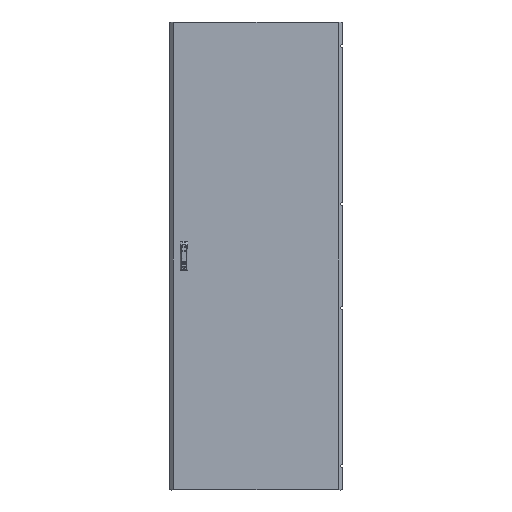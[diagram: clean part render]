
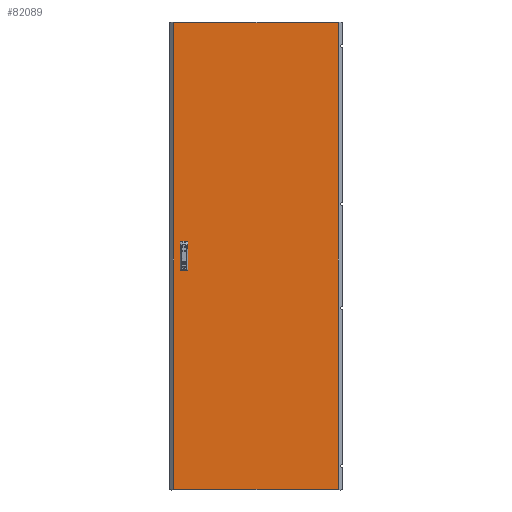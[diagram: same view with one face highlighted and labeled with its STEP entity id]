
A CAD part, top view. The second image highlights one B-rep face of the part: STEP entity #82089.
In plain terms, the highlighted planar face has unit normal (0, 0, 1).
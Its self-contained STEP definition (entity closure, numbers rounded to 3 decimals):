
#5246 = CARTESIAN_POINT ( 'NONE',  ( -377.875, -1069.5, 0. ) ) ;
#6404 = CARTESIAN_POINT ( 'NONE',  ( 377.875, 1069.5, 0. ) ) ;
#7459 = CARTESIAN_POINT ( 'NONE',  ( -317.5, -62.5, 0. ) ) ;
#8444 = VERTEX_POINT ( 'NONE', #133043 ) ;
#8459 = VECTOR ( 'NONE', #134725, 1000. ) ;
#9691 = LINE ( 'NONE', #97437, #21490 ) ;
#9742 = CARTESIAN_POINT ( 'NONE',  ( -317.5, 12.5, 0. ) ) ;
#14311 = CARTESIAN_POINT ( 'NONE',  ( -377.875, -1069.5, 0. ) ) ;
#15081 = ORIENTED_EDGE ( 'NONE', *, *, #90477, .F. ) ;
#16864 = LINE ( 'NONE', #40348, #98002 ) ;
#18886 = CARTESIAN_POINT ( 'NONE',  ( -342.5, 12.5, 0. ) ) ;
#19301 = CARTESIAN_POINT ( 'NONE',  ( -377.875, 1069.5, 0. ) ) ;
#19838 = CARTESIAN_POINT ( 'NONE',  ( -342.5, -12.5, 0. ) ) ;
#20945 = CARTESIAN_POINT ( 'NONE',  ( 0., 0., 0. ) ) ;
#21008 = ORIENTED_EDGE ( 'NONE', *, *, #49688, .T. ) ;
#21490 = VECTOR ( 'NONE', #64585, 1000. ) ;
#27635 = VECTOR ( 'NONE', #48850, 1000. ) ;
#29132 = DIRECTION ( 'NONE',  ( -1., 0., 0. ) ) ;
#30390 = VERTEX_POINT ( 'NONE', #9742 ) ;
#30639 = VERTEX_POINT ( 'NONE', #7459 ) ;
#32778 = EDGE_CURVE ( 'NONE', #50305, #30390, #43649, .T. ) ;
#33488 = VERTEX_POINT ( 'NONE', #49469 ) ;
#37733 = AXIS2_PLACEMENT_3D ( 'NONE', #20945, #62342, #98013 ) ;
#38123 = CARTESIAN_POINT ( 'NONE',  ( -342.5, 62.5, 0. ) ) ;
#40348 = CARTESIAN_POINT ( 'NONE',  ( -317.5, 12.5, 0. ) ) ;
#42504 = CARTESIAN_POINT ( 'NONE',  ( -317.5, 62.5, 0. ) ) ;
#43371 = VERTEX_POINT ( 'NONE', #113941 ) ;
#43649 = LINE ( 'NONE', #89334, #118271 ) ;
#46749 = EDGE_CURVE ( 'NONE', #82378, #43371, #104415, .T. ) ;
#47567 = CARTESIAN_POINT ( 'NONE',  ( -317.5, -62.5, 0. ) ) ;
#48850 = DIRECTION ( 'NONE',  ( -1., 0., 0. ) ) ;
#48994 = EDGE_LOOP ( 'NONE', ( #133305, #58199, #55272, #139544 ) ) ;
#49469 = CARTESIAN_POINT ( 'NONE',  ( -342.5, -12.5, 0. ) ) ;
#49603 = VECTOR ( 'NONE', #61101, 1000. ) ;
#49688 = EDGE_CURVE ( 'NONE', #43371, #52152, #86369, .T. ) ;
#49855 = LINE ( 'NONE', #19838, #120920 ) ;
#50127 = EDGE_CURVE ( 'NONE', #30639, #65460, #111860, .T. ) ;
#50305 = VERTEX_POINT ( 'NONE', #95342 ) ;
#50939 = EDGE_CURVE ( 'NONE', #54720, #82378, #79724, .T. ) ;
#52152 = VERTEX_POINT ( 'NONE', #6404 ) ;
#52331 = FACE_BOUND ( 'NONE', #48994, .T. ) ;
#53734 = EDGE_CURVE ( 'NONE', #30390, #105205, #16864, .T. ) ;
#53869 = ORIENTED_EDGE ( 'NONE', *, *, #131444, .T. ) ;
#54720 = VERTEX_POINT ( 'NONE', #121183 ) ;
#54806 = EDGE_LOOP ( 'NONE', ( #15081, #95476, #116404, #56247 ) ) ;
#55272 = ORIENTED_EDGE ( 'NONE', *, *, #32778, .F. ) ;
#56247 = ORIENTED_EDGE ( 'NONE', *, *, #123024, .F. ) ;
#58199 = ORIENTED_EDGE ( 'NONE', *, *, #53734, .F. ) ;
#61101 = DIRECTION ( 'NONE',  ( 0., -1., 0. ) ) ;
#61704 = LINE ( 'NONE', #18886, #80231 ) ;
#62342 = DIRECTION ( 'NONE',  ( 0., 0., -1. ) ) ;
#62348 = CARTESIAN_POINT ( 'NONE',  ( -342.5, 62.5, 0. ) ) ;
#62807 = DIRECTION ( 'NONE',  ( -1., 0., 0. ) ) ;
#63746 = FACE_BOUND ( 'NONE', #54806, .T. ) ;
#64585 = DIRECTION ( 'NONE',  ( 1., 0., 0. ) ) ;
#65460 = VERTEX_POINT ( 'NONE', #122610 ) ;
#71097 = DIRECTION ( 'NONE',  ( 0., 1., 0. ) ) ;
#73832 = DIRECTION ( 'NONE',  ( 0., -1., 0. ) ) ;
#79493 = EDGE_CURVE ( 'NONE', #8444, #30639, #9691, .T. ) ;
#79724 = LINE ( 'NONE', #128222, #49603 ) ;
#80231 = VECTOR ( 'NONE', #73832, 1000. ) ;
#81360 = LINE ( 'NONE', #124920, #110326 ) ;
#81669 = LINE ( 'NONE', #62348, #27635 ) ;
#82089 = ADVANCED_FACE ( 'NONE', ( #52331, #63746, #96626 ), #140208, .F. ) ;
#82378 = VERTEX_POINT ( 'NONE', #14311 ) ;
#85798 = VECTOR ( 'NONE', #102294, 1000. ) ;
#86369 = LINE ( 'NONE', #109906, #106362 ) ;
#87220 = DIRECTION ( 'NONE',  ( 1., 0., 0. ) ) ;
#89334 = CARTESIAN_POINT ( 'NONE',  ( -342.5, 12.5, 0. ) ) ;
#90477 = EDGE_CURVE ( 'NONE', #65460, #33488, #49855, .T. ) ;
#94466 = EDGE_LOOP ( 'NONE', ( #21008, #53869, #102438, #115412 ) ) ;
#95342 = CARTESIAN_POINT ( 'NONE',  ( -342.5, 12.5, 0. ) ) ;
#95476 = ORIENTED_EDGE ( 'NONE', *, *, #50127, .F. ) ;
#96626 = FACE_OUTER_BOUND ( 'NONE', #94466, .T. ) ;
#97437 = CARTESIAN_POINT ( 'NONE',  ( -342.5, -62.5, 0. ) ) ;
#98002 = VECTOR ( 'NONE', #71097, 1000. ) ;
#98013 = DIRECTION ( 'NONE',  ( -1., 0., 0. ) ) ;
#102294 = DIRECTION ( 'NONE',  ( 1., 0., 0. ) ) ;
#102438 = ORIENTED_EDGE ( 'NONE', *, *, #50939, .T. ) ;
#104415 = LINE ( 'NONE', #5246, #85798 ) ;
#105205 = VERTEX_POINT ( 'NONE', #42504 ) ;
#106362 = VECTOR ( 'NONE', #121345, 1000. ) ;
#109906 = CARTESIAN_POINT ( 'NONE',  ( 377.875, -1069.5, 0. ) ) ;
#110326 = VECTOR ( 'NONE', #134970, 1000. ) ;
#111860 = LINE ( 'NONE', #47567, #8459 ) ;
#113941 = CARTESIAN_POINT ( 'NONE',  ( 377.875, -1069.5, 0. ) ) ;
#115412 = ORIENTED_EDGE ( 'NONE', *, *, #46749, .T. ) ;
#116404 = ORIENTED_EDGE ( 'NONE', *, *, #79493, .F. ) ;
#117103 = LINE ( 'NONE', #19301, #118560 ) ;
#118271 = VECTOR ( 'NONE', #87220, 1000. ) ;
#118560 = VECTOR ( 'NONE', #62807, 1000. ) ;
#120920 = VECTOR ( 'NONE', #29132, 1000. ) ;
#121183 = CARTESIAN_POINT ( 'NONE',  ( -377.875, 1069.5, 0. ) ) ;
#121345 = DIRECTION ( 'NONE',  ( 0., 1., 0. ) ) ;
#122610 = CARTESIAN_POINT ( 'NONE',  ( -317.5, -12.5, 0. ) ) ;
#123024 = EDGE_CURVE ( 'NONE', #33488, #8444, #81360, .T. ) ;
#124920 = CARTESIAN_POINT ( 'NONE',  ( -342.5, -62.5, 0. ) ) ;
#126403 = VERTEX_POINT ( 'NONE', #38123 ) ;
#128222 = CARTESIAN_POINT ( 'NONE',  ( -377.875, -1069.5, 0. ) ) ;
#131444 = EDGE_CURVE ( 'NONE', #52152, #54720, #117103, .T. ) ;
#133043 = CARTESIAN_POINT ( 'NONE',  ( -342.5, -62.5, 0. ) ) ;
#133305 = ORIENTED_EDGE ( 'NONE', *, *, #135019, .F. ) ;
#134725 = DIRECTION ( 'NONE',  ( 0., 1., 0. ) ) ;
#134970 = DIRECTION ( 'NONE',  ( 0., -1., 0. ) ) ;
#135019 = EDGE_CURVE ( 'NONE', #105205, #126403, #81669, .T. ) ;
#136311 = EDGE_CURVE ( 'NONE', #126403, #50305, #61704, .T. ) ;
#139544 = ORIENTED_EDGE ( 'NONE', *, *, #136311, .F. ) ;
#140208 = PLANE ( 'NONE',  #37733 ) ;
